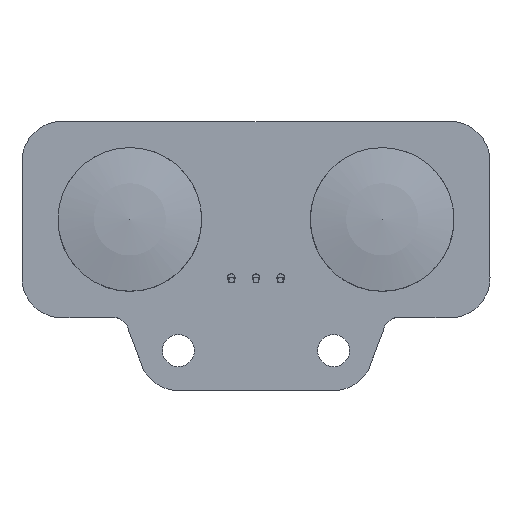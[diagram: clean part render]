
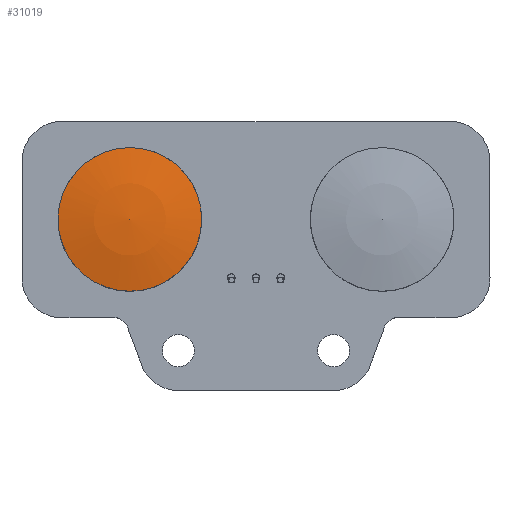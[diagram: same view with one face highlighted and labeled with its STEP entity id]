
A CAD part, top view. The second image highlights one B-rep face of the part: STEP entity #31019.
In plain terms, the highlighted spherical face has radius 36.287 mm.
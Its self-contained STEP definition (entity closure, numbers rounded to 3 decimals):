
#30988 = CYLINDRICAL_SURFACE('',#30989,7.4);
#30989 = AXIS2_PLACEMENT_3D('',#30990,#30991,#30992);
#30990 = CARTESIAN_POINT('',(0.,0.,0.));
#30991 = DIRECTION('',(0.,0.,1.));
#30992 = DIRECTION('',(-1.,0.,0.));
#31019 = ADVANCED_FACE('',(#31020),#31035,.T.);
#31020 = FACE_BOUND('',#31021,.T.);
#31021 = EDGE_LOOP('',(#31022,#31074,#31117,#31142));
#31022 = ORIENTED_EDGE('',*,*,#31023,.T.);
#31023 = EDGE_CURVE('',#31024,#31026,#31028,.T.);
#31024 = VERTEX_POINT('',#31025);
#31025 = CARTESIAN_POINT('',(7.4,0.,9.8));
#31026 = VERTEX_POINT('',#31027);
#31027 = CARTESIAN_POINT('',(-2.5,6.965,9.8));
#31028 = SURFACE_CURVE('',#31029,(#31034,#31068),.PCURVE_S1.);
#31029 = CIRCLE('',#31030,7.4);
#31030 = AXIS2_PLACEMENT_3D('',#31031,#31032,#31033);
#31031 = CARTESIAN_POINT('',(0.,0.,9.8));
#31032 = DIRECTION('',(0.,0.,1.));
#31033 = DIRECTION('',(-1.,0.,0.));
#31034 = PCURVE('',#31035,#31040);
#31035 = SPHERICAL_SURFACE('',#31036,36.287);
#31036 = AXIS2_PLACEMENT_3D('',#31037,#31038,#31039);
#31037 = CARTESIAN_POINT('',(0.,0.,-25.725
    ));
#31038 = DIRECTION('',(0.,0.,1.));
#31039 = DIRECTION('',(1.,0.,0.));
#31040 = DEFINITIONAL_REPRESENTATION('',(#31041),#31067);
#31041 = B_SPLINE_CURVE_WITH_KNOTS('',3,(#31042,#31043,#31044,#31045,
    #31046,#31047,#31048,#31049,#31050,#31051,#31052,#31053,#31054,
    #31055,#31056,#31057,#31058,#31059,#31060,#31061,#31062,#31063,
    #31064,#31065,#31066),.UNSPECIFIED.,.F.,.F.,(4,1,1,1,1,1,1,1,1,1,1,1
    ,1,1,1,1,1,1,1,1,1,1,4),(3.142,3.427,3.713
    ,3.998,4.284,4.57,4.855,
    5.141,5.426,5.712,5.998,
    6.283,6.569,6.854,7.14,
    7.426,7.711,7.997,8.282,
    8.568,8.854,9.139,9.425),
  .QUASI_UNIFORM_KNOTS.);
#31042 = CARTESIAN_POINT('',(0.,1.365));
#31043 = CARTESIAN_POINT('',(0.095,1.365));
#31044 = CARTESIAN_POINT('',(0.286,1.365));
#31045 = CARTESIAN_POINT('',(0.571,1.365));
#31046 = CARTESIAN_POINT('',(0.857,1.365));
#31047 = CARTESIAN_POINT('',(1.142,1.365));
#31048 = CARTESIAN_POINT('',(1.428,1.365));
#31049 = CARTESIAN_POINT('',(1.714,1.365));
#31050 = CARTESIAN_POINT('',(1.999,1.365));
#31051 = CARTESIAN_POINT('',(2.285,1.365));
#31052 = CARTESIAN_POINT('',(2.57,1.365));
#31053 = CARTESIAN_POINT('',(2.856,1.365));
#31054 = CARTESIAN_POINT('',(3.142,1.365));
#31055 = CARTESIAN_POINT('',(3.427,1.365));
#31056 = CARTESIAN_POINT('',(3.713,1.365));
#31057 = CARTESIAN_POINT('',(3.998,1.365));
#31058 = CARTESIAN_POINT('',(4.284,1.365));
#31059 = CARTESIAN_POINT('',(4.57,1.365));
#31060 = CARTESIAN_POINT('',(4.855,1.365));
#31061 = CARTESIAN_POINT('',(5.141,1.365));
#31062 = CARTESIAN_POINT('',(5.426,1.365));
#31063 = CARTESIAN_POINT('',(5.712,1.365));
#31064 = CARTESIAN_POINT('',(5.998,1.365));
#31065 = CARTESIAN_POINT('',(6.188,1.365));
#31066 = CARTESIAN_POINT('',(6.283,1.365));
#31067 = ( GEOMETRIC_REPRESENTATION_CONTEXT(2) 
PARAMETRIC_REPRESENTATION_CONTEXT() REPRESENTATION_CONTEXT('2D SPACE',''
  ) );
#31068 = PCURVE('',#30988,#31069);
#31069 = DEFINITIONAL_REPRESENTATION('',(#31070),#31073);
#31070 = B_SPLINE_CURVE_WITH_KNOTS('',1,(#31071,#31072),.UNSPECIFIED.,
  .F.,.F.,(2,2),(3.142,5.057),
  .PIECEWISE_BEZIER_KNOTS.);
#31071 = CARTESIAN_POINT('',(9.425,9.8));
#31072 = CARTESIAN_POINT('',(11.34,9.8));
#31073 = ( GEOMETRIC_REPRESENTATION_CONTEXT(2) 
PARAMETRIC_REPRESENTATION_CONTEXT() REPRESENTATION_CONTEXT('2D SPACE',''
  ) );
#31074 = ORIENTED_EDGE('',*,*,#31075,.T.);
#31075 = EDGE_CURVE('',#31026,#31024,#31076,.T.);
#31076 = SURFACE_CURVE('',#31077,(#31082,#31111),.PCURVE_S1.);
#31077 = CIRCLE('',#31078,7.4);
#31078 = AXIS2_PLACEMENT_3D('',#31079,#31080,#31081);
#31079 = CARTESIAN_POINT('',(0.,0.,9.8));
#31080 = DIRECTION('',(0.,0.,1.));
#31081 = DIRECTION('',(-1.,0.,0.));
#31082 = PCURVE('',#31035,#31083);
#31083 = DEFINITIONAL_REPRESENTATION('',(#31084),#31110);
#31084 = B_SPLINE_CURVE_WITH_KNOTS('',3,(#31085,#31086,#31087,#31088,
    #31089,#31090,#31091,#31092,#31093,#31094,#31095,#31096,#31097,
    #31098,#31099,#31100,#31101,#31102,#31103,#31104,#31105,#31106,
    #31107,#31108,#31109),.UNSPECIFIED.,.F.,.F.,(4,1,1,1,1,1,1,1,1,1,1,1
    ,1,1,1,1,1,1,1,1,1,1,4),(3.142,3.427,3.713
    ,3.998,4.284,4.57,4.855,
    5.141,5.426,5.712,5.998,
    6.283,6.569,6.854,7.14,
    7.426,7.711,7.997,8.282,
    8.568,8.854,9.139,9.425),
  .QUASI_UNIFORM_KNOTS.);
#31085 = CARTESIAN_POINT('',(0.,1.365));
#31086 = CARTESIAN_POINT('',(0.095,1.365));
#31087 = CARTESIAN_POINT('',(0.286,1.365));
#31088 = CARTESIAN_POINT('',(0.571,1.365));
#31089 = CARTESIAN_POINT('',(0.857,1.365));
#31090 = CARTESIAN_POINT('',(1.142,1.365));
#31091 = CARTESIAN_POINT('',(1.428,1.365));
#31092 = CARTESIAN_POINT('',(1.714,1.365));
#31093 = CARTESIAN_POINT('',(1.999,1.365));
#31094 = CARTESIAN_POINT('',(2.285,1.365));
#31095 = CARTESIAN_POINT('',(2.57,1.365));
#31096 = CARTESIAN_POINT('',(2.856,1.365));
#31097 = CARTESIAN_POINT('',(3.142,1.365));
#31098 = CARTESIAN_POINT('',(3.427,1.365));
#31099 = CARTESIAN_POINT('',(3.713,1.365));
#31100 = CARTESIAN_POINT('',(3.998,1.365));
#31101 = CARTESIAN_POINT('',(4.284,1.365));
#31102 = CARTESIAN_POINT('',(4.57,1.365));
#31103 = CARTESIAN_POINT('',(4.855,1.365));
#31104 = CARTESIAN_POINT('',(5.141,1.365));
#31105 = CARTESIAN_POINT('',(5.426,1.365));
#31106 = CARTESIAN_POINT('',(5.712,1.365));
#31107 = CARTESIAN_POINT('',(5.998,1.365));
#31108 = CARTESIAN_POINT('',(6.188,1.365));
#31109 = CARTESIAN_POINT('',(6.283,1.365));
#31110 = ( GEOMETRIC_REPRESENTATION_CONTEXT(2) 
PARAMETRIC_REPRESENTATION_CONTEXT() REPRESENTATION_CONTEXT('2D SPACE',''
  ) );
#31111 = PCURVE('',#30988,#31112);
#31112 = DEFINITIONAL_REPRESENTATION('',(#31113),#31116);
#31113 = B_SPLINE_CURVE_WITH_KNOTS('',1,(#31114,#31115),.UNSPECIFIED.,
  .F.,.F.,(2,2),(5.057,9.425),
  .PIECEWISE_BEZIER_KNOTS.);
#31114 = CARTESIAN_POINT('',(5.057,9.8));
#31115 = CARTESIAN_POINT('',(9.425,9.8));
#31116 = ( GEOMETRIC_REPRESENTATION_CONTEXT(2) 
PARAMETRIC_REPRESENTATION_CONTEXT() REPRESENTATION_CONTEXT('2D SPACE',''
  ) );
#31117 = ORIENTED_EDGE('',*,*,#31118,.T.);
#31118 = EDGE_CURVE('',#31024,#31119,#31121,.T.);
#31119 = VERTEX_POINT('',#31120);
#31120 = CARTESIAN_POINT('',(0.,0.,
    10.563));
#31121 = SEAM_CURVE('',#31122,(#31128,#31135),.PCURVE_S1.);
#31122 = B_SPLINE_CURVE_WITH_KNOTS('',4,(#31123,#31124,#31125,#31126,
    #31127),.UNSPECIFIED.,.F.,.F.,(5,5),(1.365,1.571),
  .PIECEWISE_BEZIER_KNOTS.);
#31123 = CARTESIAN_POINT('',(7.4,0.,9.8));
#31124 = CARTESIAN_POINT('',(5.576,0.,10.18));
#31125 = CARTESIAN_POINT('',(3.726,0.,10.435));
#31126 = CARTESIAN_POINT('',(1.863,0.,10.563));
#31127 = CARTESIAN_POINT('',(0.,0.,10.563
    ));
#31128 = PCURVE('',#31035,#31129);
#31129 = DEFINITIONAL_REPRESENTATION('',(#31130),#31134);
#31130 = LINE('',#31131,#31132);
#31131 = CARTESIAN_POINT('',(6.283,0.));
#31132 = VECTOR('',#31133,1.);
#31133 = DIRECTION('',(0.,1.));
#31134 = ( GEOMETRIC_REPRESENTATION_CONTEXT(2) 
PARAMETRIC_REPRESENTATION_CONTEXT() REPRESENTATION_CONTEXT('2D SPACE',''
  ) );
#31135 = PCURVE('',#31035,#31136);
#31136 = DEFINITIONAL_REPRESENTATION('',(#31137),#31141);
#31137 = LINE('',#31138,#31139);
#31138 = CARTESIAN_POINT('',(0.,0.));
#31139 = VECTOR('',#31140,1.);
#31140 = DIRECTION('',(0.,1.));
#31141 = ( GEOMETRIC_REPRESENTATION_CONTEXT(2) 
PARAMETRIC_REPRESENTATION_CONTEXT() REPRESENTATION_CONTEXT('2D SPACE',''
  ) );
#31142 = ORIENTED_EDGE('',*,*,#31118,.F.);
